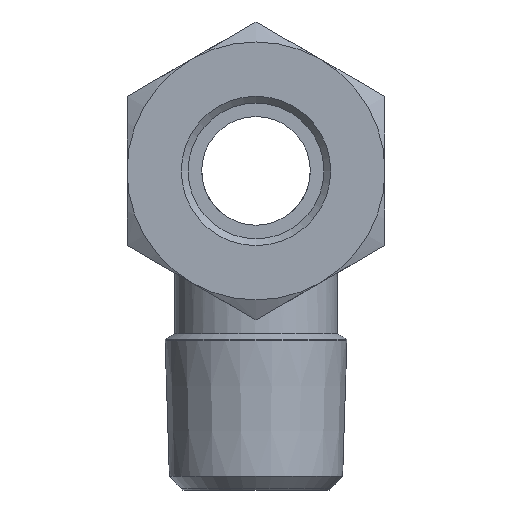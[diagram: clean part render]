
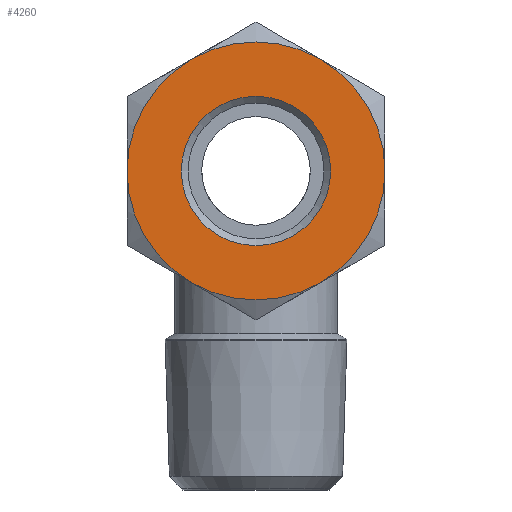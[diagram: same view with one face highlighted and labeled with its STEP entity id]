
A CAD part, left-side view. The second image highlights one B-rep face of the part: STEP entity #4260.
In plain terms, the highlighted planar face has unit normal (-1, 0, 0).
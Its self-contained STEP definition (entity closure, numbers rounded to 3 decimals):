
#4260=ADVANCED_FACE('', (#4270,#4280), #4290, .T.);
#14280=AXIS2_PLACEMENT_3D('Ax2Pl3d', #14290, #14300, #14310);
#14320=AXIS2_PLACEMENT_3D('Ax2Pl3d', #14330, #14340, #14350);
#14360=AXIS2_PLACEMENT_3D('Ax2Pl3d', #14370, #14380, #14390);
#14400=AXIS2_PLACEMENT_3D('Ax2Pl3d', #14410, #14420, #14430);
#14440=AXIS2_PLACEMENT_3D('Ax2Pl3d', #14450, #14460, #14470);
#14480=AXIS2_PLACEMENT_3D('Ax2Pl3d', #14490, #14500, #14510);
#14520=AXIS2_PLACEMENT_3D('Ax2Pl3d', #14530, #14540, #14550);
#14560=AXIS2_PLACEMENT_3D('Ax2Pl3d', #14570, #14580, #14590);
#48210=CARTESIAN_POINT('', (0.404,22.831,26.122))
;
#48280=CARTESIAN_POINT('', (0.404,27.581,34.349));
#48330=CARTESIAN_POINT('', (0.404,22.831,42.576));
#48400=CARTESIAN_POINT('', (0.404,13.331,42.576));
#48440=CARTESIAN_POINT('', (0.404,8.581,34.349))
;
#48480=CARTESIAN_POINT('', (0.404,13.331,26.122))
;
#14290=CARTESIAN_POINT('HicPkt', (0.404,18.081,
43.849));
#14330=CARTESIAN_POINT('HicPkt', (0.404,18.081,
34.349));
#14370=CARTESIAN_POINT('HicPkt', (0.404,18.081,
34.349));
#14410=CARTESIAN_POINT('HicPkt', (0.404,18.081,
34.349));
#14450=CARTESIAN_POINT('HicPkt', (0.404,18.081,
34.349));
#14490=CARTESIAN_POINT('HicPkt', (0.404,18.081,
34.349));
#14530=CARTESIAN_POINT('HicPkt', (0.404,18.081,
34.349));
#14570=CARTESIAN_POINT('HicPkt', (0.404,18.081,
34.349));
#48520=CARTESIAN_POINT('', (0.404,23.581,34.349));
#49560=CIRCLE('Circle', #14320, 9.5);
#49570=CIRCLE('Circle', #14360, 9.5);
#49580=CIRCLE('Circle', #14400, 9.5);
#49590=CIRCLE('Circle', #14440, 9.5);
#49600=CIRCLE('Circle', #14480, 9.5);
#49610=CIRCLE('Circle', #14520, 9.5);
#49620=CIRCLE('Circle', #14560, 5.5);
#14300=DIRECTION('Axis', (-1.,0.,
0.));
#14310=DIRECTION('RefDirection', (0.,
0.,-1.));
#14340=DIRECTION('Axis', (-1.,0.,
0.));
#14350=DIRECTION('RefDirection', (0.,
0.,-1.));
#14380=DIRECTION('Axis', (-1.,0.,
0.));
#14390=DIRECTION('RefDirection', (0.,
0.,-1.));
#14420=DIRECTION('Axis', (-1.,0.,
0.));
#14430=DIRECTION('RefDirection', (0.,
0.,-1.));
#14460=DIRECTION('Axis', (-1.,0.,
0.));
#14470=DIRECTION('RefDirection', (0.,
0.,-1.));
#14500=DIRECTION('Axis', (-1.,0.,
0.));
#14510=DIRECTION('RefDirection', (0.,
0.,-1.));
#14540=DIRECTION('Axis', (1.,0.,0.));
#14550=DIRECTION('RefDirection', (0.,0.,-1.));
#14580=DIRECTION('Axis', (1.,0.,0.));
#14590=DIRECTION('RefDirection', (0.,0.,-1.));
#62870=EDGE_CURVE('', #62420, #62320, #49560, .T.);
#62880=EDGE_CURVE('', #62320, #62190, #49570, .T.);
#62890=EDGE_CURVE('', #62190, #62720, #49580, .T.);
#62900=EDGE_CURVE('', #62720, #62640, #49590, .T.);
#62910=EDGE_CURVE('', #62640, #62560, #49600, .T.);
#62920=EDGE_CURVE('', #62420, #62560, #49610, .T.);
#62930=EDGE_CURVE('', #62940, #62940, #49620, .T.);
#69220=EDGE_LOOP('Edge_loop', (#69230,#69240,#69250,#69260,#69270,
#69280));
#69290=EDGE_LOOP('Edge_loop', (#69300));
#4280=FACE_BOUND('', #69290, .T.);
#4270=FACE_OUTER_BOUND('Face_outer_bound', #69220, .T.);
#69230=ORIENTED_EDGE('', *, *, #62870, .T.);
#69240=ORIENTED_EDGE('', *, *, #62880, .T.);
#69250=ORIENTED_EDGE('', *, *, #62890, .T.);
#69260=ORIENTED_EDGE('', *, *, #62900, .T.);
#69270=ORIENTED_EDGE('', *, *, #62910, .T.);
#69280=ORIENTED_EDGE('', *, *, #62920, .F.);
#69300=ORIENTED_EDGE('', *, *, #62930, .T.);
#4290=PLANE('Plane', #14280);
#62190=VERTEX_POINT('', #48210);
#62320=VERTEX_POINT('', #48280);
#62420=VERTEX_POINT('', #48330);
#62560=VERTEX_POINT('', #48400);
#62640=VERTEX_POINT('', #48440);
#62720=VERTEX_POINT('', #48480);
#62940=VERTEX_POINT('', #48520);
